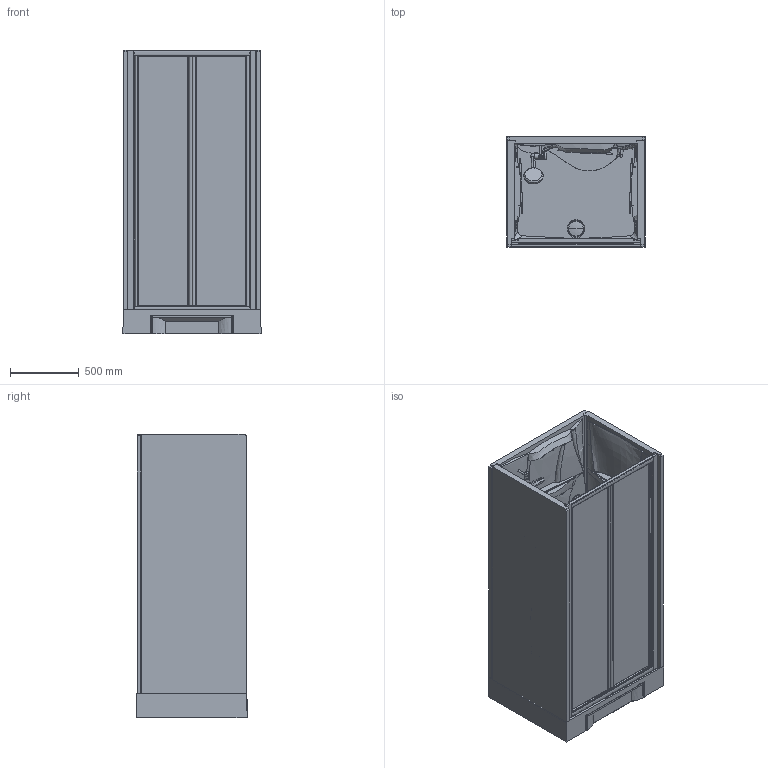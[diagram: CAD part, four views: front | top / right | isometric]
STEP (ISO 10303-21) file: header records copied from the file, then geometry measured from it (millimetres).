
FILE_DESCRIPTION(('STEP AP203'),'2;1');
FILE_NAME('NNH BI 100 M 19.stp','2015-09-04T15:04:32',(''),(''),'2014.1.117','THINKDESIGN','');
FILE_SCHEMA(('CONFIG_CONTROL_DESIGN'));
Bounding box: 1004.04 x 807.53 x 2063.06 mm (x, y, z)
Volume: 270559328.9 mm3; surface area: 18611048.2 mm2
Topology: 34 solids, 34 shells, 702 faces, 1757 edges, 1142 vertices
Faces by surface type: bspline 385, plane 226, cylinder 91
Entity records: 71791 total; most frequent: CARTESIAN_POINT 57847, ORIENTED_EDGE 3336, DIRECTION 1820, EDGE_CURVE 1668, VERTEX_POINT 1069, EDGE_LOOP 713, VECTOR 696, LINE 696
